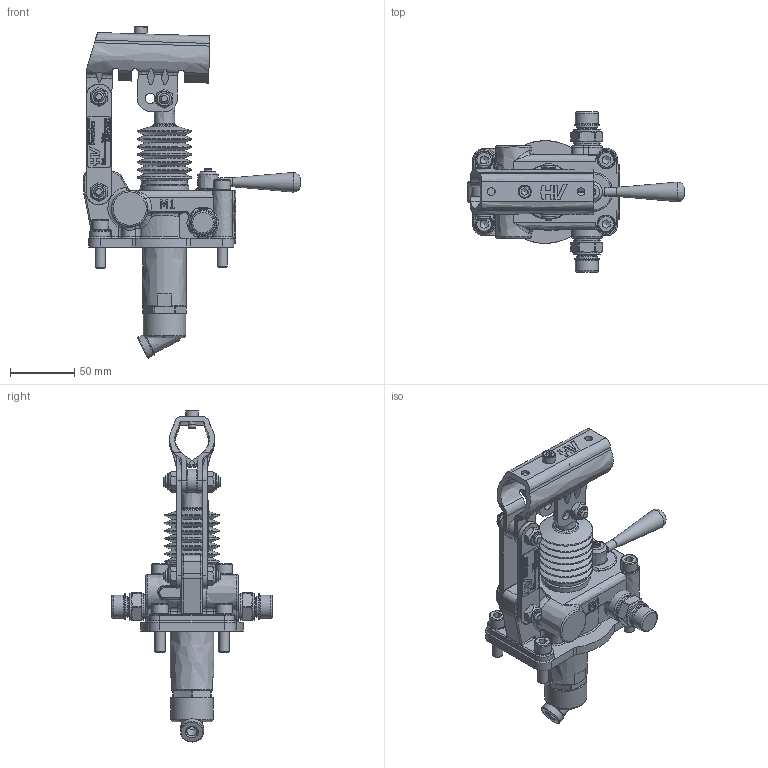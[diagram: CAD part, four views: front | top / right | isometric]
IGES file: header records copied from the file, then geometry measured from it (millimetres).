
Global section: file name: No Iges File Name specified; native system: Autodesk Inventor 2013; preprocessor: AutoDesk Inventor Iges Exporter R2013; author: christian.scardovi; date: 20240229.143154; units: millimetre
Bounding box: 169 x 125 x 258.54 mm (x, y, z)
Surface area: 128778.4 mm2
Topology: 2 solids, 3 shells, 1514 faces, 3805 edges, 2409 vertices
Faces by surface type: bspline 1514
